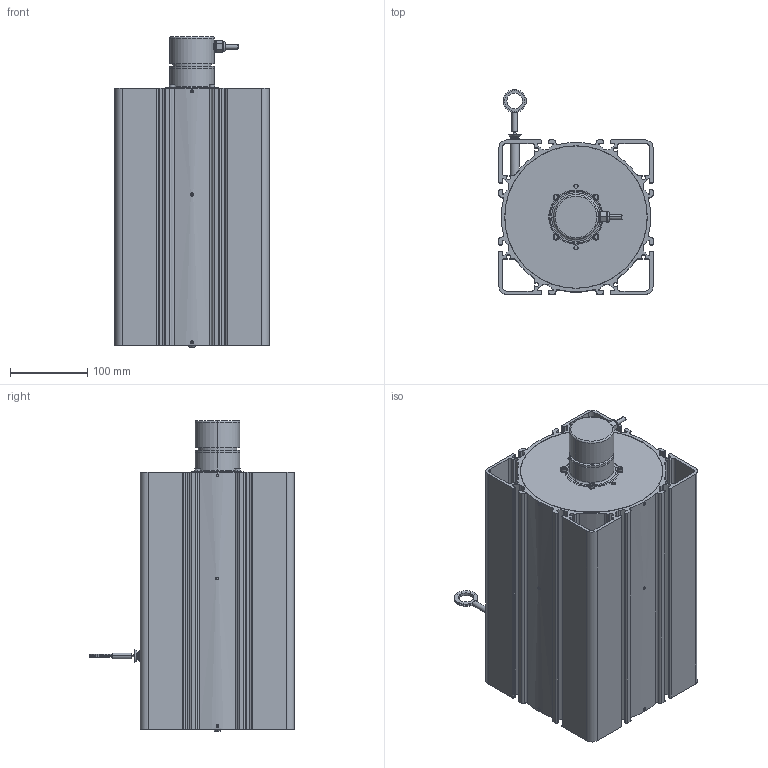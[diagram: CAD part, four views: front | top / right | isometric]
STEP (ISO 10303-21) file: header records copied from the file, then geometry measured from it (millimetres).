
FILE_DESCRIPTION((''),'2;1');
FILE_NAME('WDS-50000-P200-M-SO_ASM','2015-06-29T',('15000411'),(''),'PRO/ENGINEER BY PARAMETRIC TECHNOLOGY CORPORATION, 2013410','PRO/ENGINEER BY PARAMETRIC TECHNOLOGY CORPORATION, 2013410','');
FILE_SCHEMA(('CONFIG_CONTROL_DESIGN'));
Length unit declared in the file: millimetre
Products named in the file (90): TELESO_SENZORU_50M_P200_AF0; BOCNICE_VNITRNI_P200_AF0; LOZISKO_6000_AF0; HRIDEL_MOTORU_50M_P200_AF0; POJ_KROUZEK_HRIDEL_10_AF0; UNASEC_PRUZINY_P200_AF0; PODLOZKA_MOTORU_P200_AF0; MEZIDESKA_POM_P200_AF0; MEZIDESKA_POM_P200_AF1; MEZIDESKA_POM_P200_AF2; KOLIK_PRUZNY_3X26_AF0; KOLIK_PRUZNY_3X26_AF1; KOLIK_PRUZNY_3X26_AF2; KOLIK_PRUZNY_3X26_AF3; KOLIK_PRUZNY_3X26_AF4; KOLIK_PRUZNY_3X26_AF5; KOLIK_PRUZNY_3X26_AF6; KOLIK_PRUZNY_3X26_AF7; KOLIK_PRUZNY_3X26_AF8; KOLIK_PRUZNY_3X26_AF9; KOLIK_PRUZNY_3X26_AF10; KOLIK_PRUZNY_3X26_AF11; KOLIK_PRUZNY_3X26_AF12; KOLIK_PRUZNY_3X26_AF13; KOLIK_PRUZNY_3X26_AF14; KOLIK_PRUZNY_3X26_AF15; BOCNICE_VNEJSI_P200_AF0; KOLIK_PRUZNY_3X26_AF16; KOLIK_PRUZNY_3X26_AF17; KOLIK_PRUZNY_3X26_AF18; KOLIK_PRUZNY_3X26_AF19; KOLIK_PRUZNY_3X26_AF20; KOLIK_PRUZNY_3X26_AF21; LOZISKO_6000_AF1; P200_25X0I35X11000_AF0; P200_25X0I35X11000_AF1; P200_25X0I35X11000_AF2; UNASEC_BUBINKU_P200_AF0; KOLIK_PRUZNY_3X20_AF0; KOLIK_PRUZNY_3X20_AF1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
Assembly tree (92 placements, depth 2):
  WDS-50000-P200-M-SO_ASM
    TELESO_SENZORU_50M_P200_AF0
    BOCNICE_VNITRNI_P200_AF0
    LOZISKO_6000_AF0
    HRIDEL_MOTORU_50M_P200_AF0
    POJ_KROUZEK_HRIDEL_10_AF0
    UNASEC_PRUZINY_P200_AF0
    PODLOZKA_MOTORU_P200_AF0
    MEZIDESKA_POM_P200_AF0
    MEZIDESKA_POM_P200_AF1
    MEZIDESKA_POM_P200_AF2
    KOLIK_PRUZNY_3X26_AF0
    KOLIK_PRUZNY_3X26_AF1
    KOLIK_PRUZNY_3X26_AF2
    KOLIK_PRUZNY_3X26_AF3
    KOLIK_PRUZNY_3X26_AF4
    KOLIK_PRUZNY_3X26_AF5
    KOLIK_PRUZNY_3X26_AF6
    KOLIK_PRUZNY_3X26_AF7
    KOLIK_PRUZNY_3X26_AF8
    KOLIK_PRUZNY_3X26_AF9
    KOLIK_PRUZNY_3X26_AF10
    KOLIK_PRUZNY_3X26_AF11
    KOLIK_PRUZNY_3X26_AF12
    KOLIK_PRUZNY_3X26_AF13
    KOLIK_PRUZNY_3X26_AF14
    KOLIK_PRUZNY_3X26_AF15
    BOCNICE_VNEJSI_P200_AF0
    KOLIK_PRUZNY_3X26_AF16
    KOLIK_PRUZNY_3X26_AF17
    KOLIK_PRUZNY_3X26_AF18
    KOLIK_PRUZNY_3X26_AF19
    KOLIK_PRUZNY_3X26_AF20
    KOLIK_PRUZNY_3X26_AF21
    LOZISKO_6000_AF1
    P200_25X0I35X11000_AF0
    P200_25X0I35X11000_AF1
    P200_25X0I35X11000_AF2
    UNASEC_BUBINKU_P200_AF0
    KOLIK_PRUZNY_3X20_AF0
    KOLIK_PRUZNY_3X20_AF1
    PREDNI_STENA_P200_AF0
    ZAVITOVA_HRIDEL_50M_P200_AF0
    SROUB_PULK_IMBUS_CEP_M5X10_AF0
    LOZISKO_KLUZNE_10_13_AF0
    KOLIK_40-50M_P200_AF0
    KOLIK_40-50M_P200_AF1
    TRUBKA_PRUCHODKY_P200_AF0
    BUBINEK_40M-50M_P200_AF0
    POUZDRO_50M_P200_AF0
    POUZDRO_50M_P200_AF1
    PRUCHODKA_P200
    MANZETA
    STIRATKO
    STAV_SR_M4X4_IMBUS_PLOCH_AF0
    STAV_SR_M4X4_IMBUS_PLOCH_AF1
    STAV_SR_M4X4_IMBUS_PLOCH_AF2
    STAV_SR_M4X4_IMBUS_PLOCH_AF3
    STAV_SR_M4X4_IMBUS_PLOCH_AF4
    STAV_SR_M4X4_IMBUS_PLOCH_AF5
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Bounding box: 200 x 266 x 402.95 mm (x, y, z)
Volume: 1910281.7 mm3; surface area: 954677.2 mm2
Topology: 47 solids, 47 shells, 1288 faces, 3303 edges, 2105 vertices
Faces by surface type: plane 617, cylinder 448, cone 124, torus 50, sphere 26, revolution 16, bspline 6, extrusion 1
Entity records: 37857 total; most frequent: CARTESIAN_POINT 9509, DIRECTION 6160, ORIENTED_EDGE 5358, EDGE_CURVE 2679, AXIS2_PLACEMENT_3D 2417, VERTEX_POINT 1709, VECTOR 1322, LINE 1321
